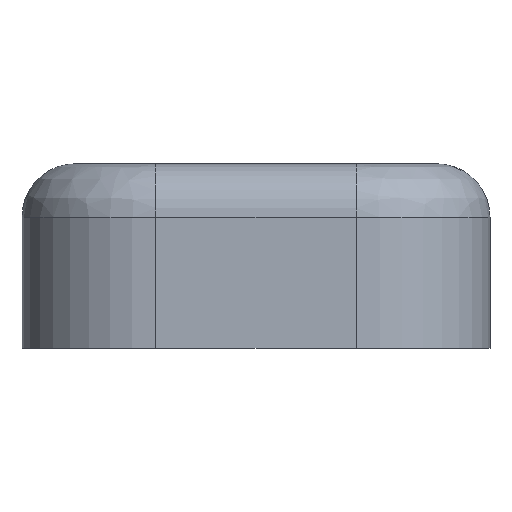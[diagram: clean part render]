
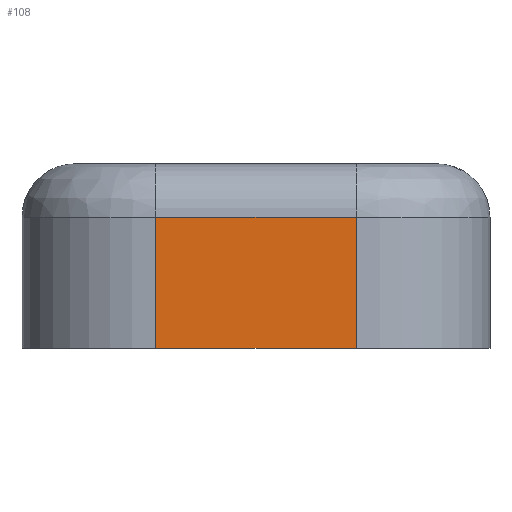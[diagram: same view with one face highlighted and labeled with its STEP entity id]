
A CAD part, front view. The second image highlights one B-rep face of the part: STEP entity #108.
In plain terms, the highlighted planar face has unit normal (0, -1, 0).
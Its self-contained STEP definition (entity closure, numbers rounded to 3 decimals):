
#108=ADVANCED_FACE('',(#278),#2786,.T.);
#278=FACE_OUTER_BOUND('',#449,.T.);
#449=EDGE_LOOP('',(#856,#857,#858,#859));
#856=ORIENTED_EDGE('',*,*,#1558,.T.);
#857=ORIENTED_EDGE('',*,*,#1620,.F.);
#858=ORIENTED_EDGE('',*,*,#1472,.F.);
#859=ORIENTED_EDGE('',*,*,#1619,.T.);
#1472=EDGE_CURVE('',#2421,#2422,#2004,.T.);
#1558=EDGE_CURVE('',#2490,#2492,#2057,.T.);
#1619=EDGE_CURVE('',#2421,#2490,#2094,.T.);
#1620=EDGE_CURVE('',#2422,#2492,#2095,.T.);
#2004=B_SPLINE_CURVE_WITH_KNOTS('',1,(#4559,#4560),.UNSPECIFIED.,.F.,.F.,
(2,2),(181.832,196.832),.UNSPECIFIED.);
#2057=B_SPLINE_CURVE_WITH_KNOTS('',1,(#4795,#4796),.UNSPECIFIED.,.F.,.F.,
(2,2),(0.,15.),.UNSPECIFIED.);
#2094=B_SPLINE_CURVE_WITH_KNOTS('',1,(#5013,#5014),.UNSPECIFIED.,.F.,.F.,
(2,2),(-2.,7.318),.UNSPECIFIED.);
#2095=B_SPLINE_CURVE_WITH_KNOTS('',1,(#5015,#5016),.UNSPECIFIED.,.F.,.F.,
(2,2),(-2.,7.318),.UNSPECIFIED.);
#2421=VERTEX_POINT('',#4234);
#2422=VERTEX_POINT('',#4235);
#2490=VERTEX_POINT('',#4303);
#2492=VERTEX_POINT('',#4305);
#2786=PLANE('',#2990);
#2990=AXIS2_PLACEMENT_3D('',#3774,#3256,$);
#3256=DIRECTION('',(0.,-1.,0.));
#3774=CARTESIAN_POINT('',(-20.,-10.,1.8));
#4234=CARTESIAN_POINT('',(-5.,-10.,-8.));
#4235=CARTESIAN_POINT('',(-20.,-10.,-8.));
#4303=CARTESIAN_POINT('',(-5.,-10.,1.8));
#4305=CARTESIAN_POINT('',(-20.,-10.,1.8));
#4559=CARTESIAN_POINT('',(-5.,-10.,-8.));
#4560=CARTESIAN_POINT('',(-20.,-10.,-8.));
#4795=CARTESIAN_POINT('',(-5.,-10.,1.8));
#4796=CARTESIAN_POINT('',(-20.,-10.,1.8));
#5013=CARTESIAN_POINT('',(-5.,-10.,-8.));
#5014=CARTESIAN_POINT('',(-5.,-10.,1.8));
#5015=CARTESIAN_POINT('',(-20.,-10.,-8.));
#5016=CARTESIAN_POINT('',(-20.,-10.,1.8));
